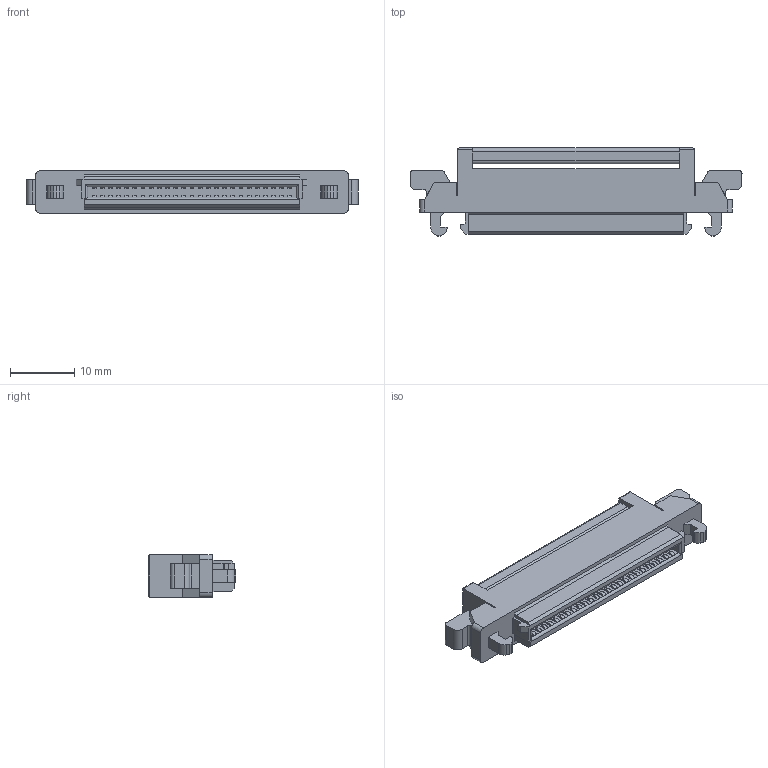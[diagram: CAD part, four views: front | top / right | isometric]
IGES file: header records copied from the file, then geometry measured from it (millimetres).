
Start section: Elysium IGES Interface
Global section: file name: 79HF:\図面登録\3DCAD\89XX\web用図面\4-IGES(図番_製品名)\P39478_8925E-050-179-F.igs; native system: CoCreate Modeling 17.0B  09-Oct-2010; preprocessor: CoCreate IGES_3D V2.2; author: Unknown; organization: Unknown; date: 20170908.194411; units: millimetre
Bounding box: 51.69 x 13.7 x 6.6 mm (x, y, z)
Volume: 2973.5 mm3; surface area: 2542.5 mm2
Topology: 1 solids, 1 shells, 394 faces, 1152 edges, 762 vertices
Faces by surface type: bspline 394
